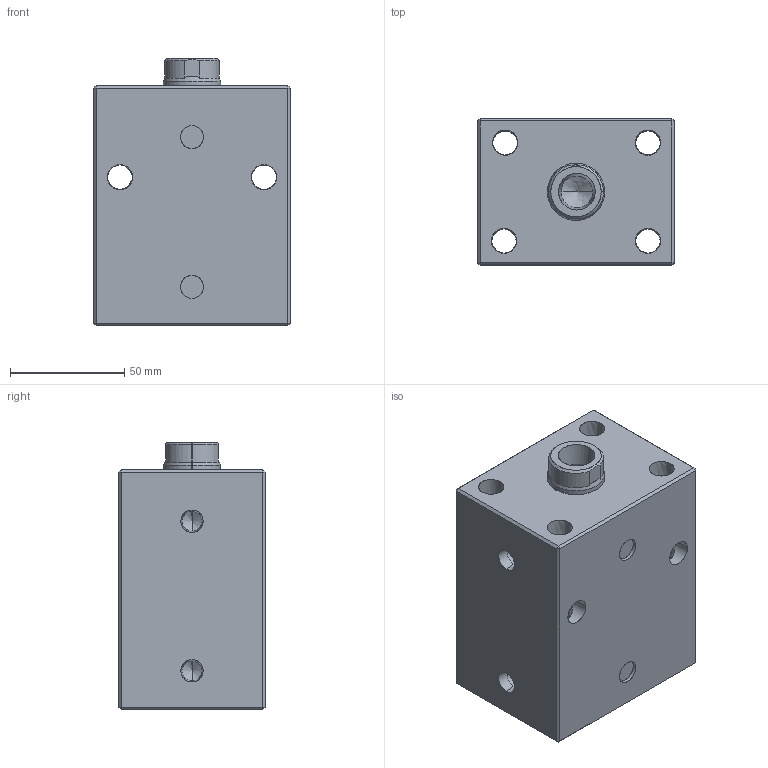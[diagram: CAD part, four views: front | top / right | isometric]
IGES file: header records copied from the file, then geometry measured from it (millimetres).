
Start section: SolidWorks IGES file using analytic representation for surfaces
Global section: file name: E:\ALL-SSVT-BLOCK\40-BORE-IGS-MODEL\BC04-40-50-F.IGS; native system: SolidWorks 2019; preprocessor: SolidWorks 2019; author: SSVT; date: 210825.144644; units: millimetre
Bounding box: 86 x 64 x 117 mm (x, y, z)
Surface area: 76597.5 mm2 (no closed solid volume)
Topology: 0 solids, 0 shells, 92 faces, 1688 edges, 1682 vertices
Faces by surface type: revolution 57, bspline 35
